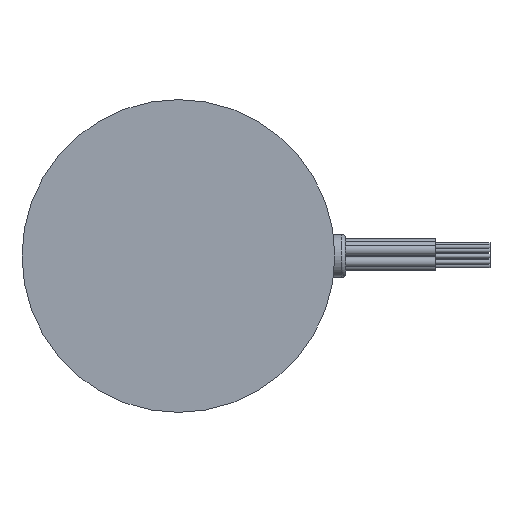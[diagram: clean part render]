
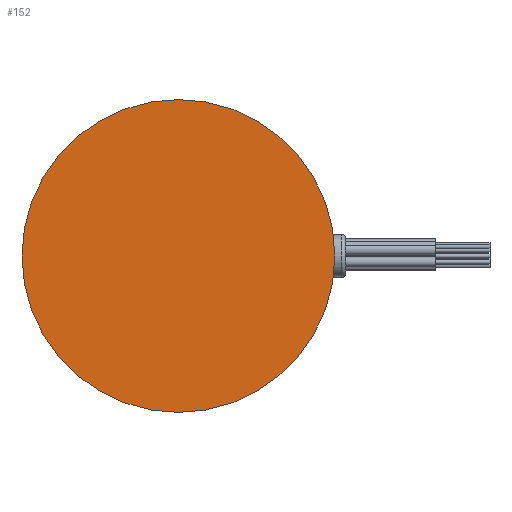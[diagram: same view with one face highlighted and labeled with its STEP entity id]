
A CAD part, front view. The second image highlights one B-rep face of the part: STEP entity #152.
In plain terms, the highlighted planar face has unit normal (0, -1, 0).
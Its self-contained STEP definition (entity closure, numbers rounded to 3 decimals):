
#42 = EDGE_LOOP ( 'NONE', ( #765, #1753 ) ) ;
#152 = ADVANCED_FACE ( 'NONE', ( #1845 ), #1604, .F. ) ;
#383 = EDGE_CURVE ( 'NONE', #2644, #1607, #2207, .T. ) ;
#447 = DIRECTION ( 'NONE',  ( 0., 1., 0. ) ) ;
#458 = AXIS2_PLACEMENT_3D ( 'NONE', #1200, #1021, #2706 ) ;
#466 = CARTESIAN_POINT ( 'NONE',  ( 14.843, 9.827, 64.689 ) ) ;
#539 = DIRECTION ( 'NONE',  ( 0., 1., 0. ) ) ;
#578 = DIRECTION ( 'NONE',  ( 0., 0., 1. ) ) ;
#765 = ORIENTED_EDGE ( 'NONE', *, *, #2084, .F. ) ;
#912 = CARTESIAN_POINT ( 'NONE',  ( 14.843, 9.827, 86.689 ) ) ;
#1021 = DIRECTION ( 'NONE',  ( 0., 1., 0. ) ) ;
#1087 = DIRECTION ( 'NONE',  ( 0., 0., 1. ) ) ;
#1200 = CARTESIAN_POINT ( 'NONE',  ( 14.843, 9.827, 86.689 ) ) ;
#1604 = PLANE ( 'NONE',  #2664 ) ;
#1607 = VERTEX_POINT ( 'NONE', #1847 ) ;
#1753 = ORIENTED_EDGE ( 'NONE', *, *, #383, .F. ) ;
#1845 = FACE_OUTER_BOUND ( 'NONE', #42, .T. ) ;
#1847 = CARTESIAN_POINT ( 'NONE',  ( 14.843, 9.827, 108.689 ) ) ;
#2036 = CARTESIAN_POINT ( 'NONE',  ( 14.843, 9.827, 86.689 ) ) ;
#2084 = EDGE_CURVE ( 'NONE', #1607, #2644, #2264, .T. ) ;
#2145 = AXIS2_PLACEMENT_3D ( 'NONE', #912, #447, #1087 ) ;
#2207 = CIRCLE ( 'NONE', #458, 22. ) ;
#2264 = CIRCLE ( 'NONE', #2145, 22. ) ;
#2644 = VERTEX_POINT ( 'NONE', #466 ) ;
#2664 = AXIS2_PLACEMENT_3D ( 'NONE', #2036, #539, #578 ) ;
#2706 = DIRECTION ( 'NONE',  ( 0., 0., 1. ) ) ;
